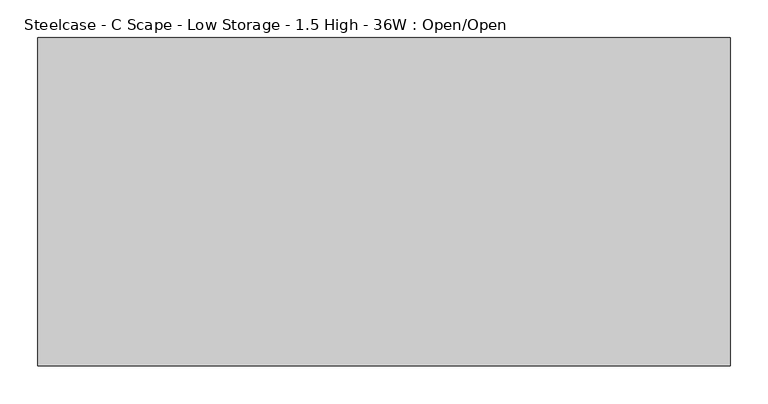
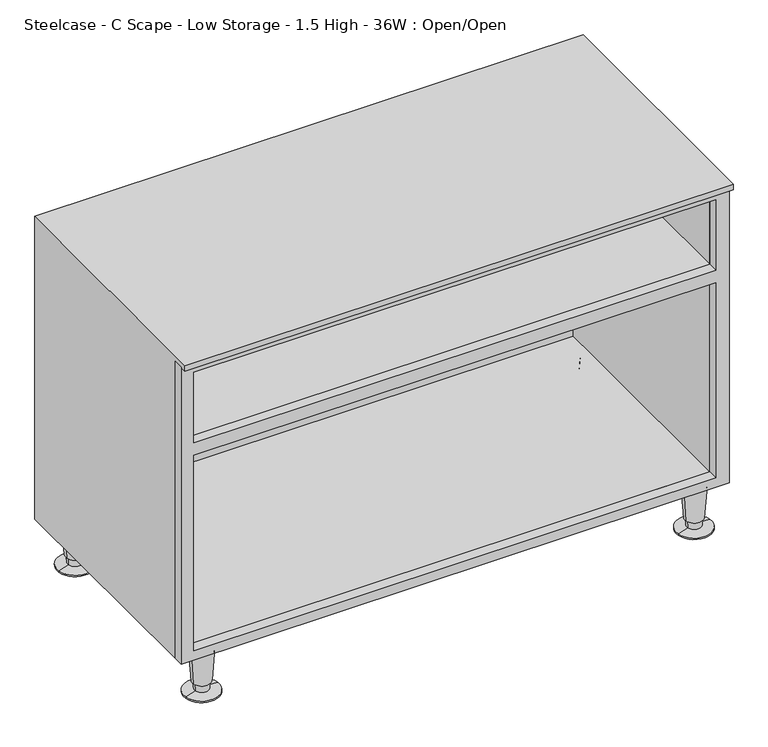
"""IFC4 building model written with IfcOpenShell, lengths in millimetres: furniture geometry, Steelcase - C Scape - Low Storage - 1.5 High - 36W : Open/Open."""

import ifcopenshell
import ifcopenshell.guid

model = None  # the IFC model being written
_history = None  # IfcOwnerHistory: only IFC2X3 demands one
_inside = {}  # id of a spatial element -> (the spatial element, [elements in it])
_under = {}  # id of a project, library or spatial element -> (it, [spatial elements below it])
_declared = {}  # id of a project -> (the project, [libraries it declares])
_typed = {}  # id of a type object -> (the type object, [elements of that type])
_made_of = {}  # id of a material, layer set ... -> (it, [elements and type objects made of it])


def new_model(schema):
    """Start an empty IFC model of exactly this schema.

    Asked for "IFC4X3", IfcOpenShell would pick the latest addendum, in which some entities
    have other attributes; the version numbers below select the first issue.
    IFC2X3 requires an IfcOwnerHistory on every rooted entity: one is made here for all.
    """
    global model, _history
    if schema == "IFC4X3":
        model = ifcopenshell.file(schema_version=(4, 3, 0, 0))
    else:
        model = ifcopenshell.file(schema=schema)
    _inside.clear()
    _under.clear()
    _declared.clear()
    _typed.clear()
    _made_of.clear()
    _history = None
    if model.schema == "IFC2X3":
        org = make("IfcOrganization", Name="unknown")
        user = make(
            "IfcPersonAndOrganization",
            ThePerson=make("IfcPerson", FamilyName="unknown"),
            TheOrganization=org,
        )
        app = make(
            "IfcApplication",
            ApplicationDeveloper=org,
            Version="unknown",
            ApplicationFullName="unknown",
            ApplicationIdentifier="unknown",
        )
        _history = make(
            "IfcOwnerHistory",
            OwningUser=user,
            OwningApplication=app,
            ChangeAction="ADDED",
            CreationDate=0,
        )
    return model


def make(cls, **values):
    """One entity of the class cls with the attributes given. An attribute that is None is left unset."""
    return model.create_entity(
        cls, **{name: value for name, value in values.items() if value is not None}
    )


def rooted(cls, **values):
    """An entity with a GlobalId (a new one), such as an element, a storey or a relation."""
    return make(cls, GlobalId=ifcopenshell.guid.new(), OwnerHistory=_history, **values)


def si_unit(unit_type, name, prefix=None):
    """IfcSIUnit, for example si_unit("LENGTHUNIT", "METRE", prefix="MILLI")."""
    return make("IfcSIUnit", UnitType=unit_type, Prefix=prefix, Name=name)


def assignment(units):
    """IfcUnitAssignment: the units of a project."""
    return None if units is None else make("IfcUnitAssignment", Units=units)


def point(xyz):
    """IfcCartesianPoint."""
    return None if xyz is None else make("IfcCartesianPoint", Coordinates=xyz)


def direction(xyz):
    """IfcDirection."""
    return None if xyz is None else make("IfcDirection", DirectionRatios=xyz)


def frame(location, z_axis=None, x_axis=None):
    """IfcAxis2Placement3D, a coordinate frame: its origin and axes. An axis left out is left unset."""
    return make(
        "IfcAxis2Placement3D",
        Location=point(location),
        Axis=direction(z_axis),
        RefDirection=direction(x_axis),
    )


def origin():
    """The frame at (0, 0, 0) with its axes left unset."""
    return frame((0.0, 0.0, 0.0))


def place(relative_to, where):
    """IfcLocalPlacement: puts the frame where relative to a parent placement (None: the world)."""
    return make(
        "IfcLocalPlacement", PlacementRelTo=relative_to, RelativePlacement=where
    )


def context(
    kind, dimensions, precision=None, world=None, true_north=None, identifier=None
):
    """IfcGeometricRepresentationContext, for example the 3D "Model" context."""
    return make(
        "IfcGeometricRepresentationContext",
        ContextIdentifier=identifier,
        ContextType=kind,
        CoordinateSpaceDimension=dimensions,
        Precision=precision,
        WorldCoordinateSystem=world,
        TrueNorth=true_north,
    )


def project(units=None, contexts=None):
    """IfcProject with its units and contexts."""
    return rooted(
        "IfcProject",
        Name="project",
        RepresentationContexts=contexts,
        UnitsInContext=assignment(units),
    )


def spatial(cls, under=None, at=None, **own):
    """A site, building, storey or space (cls), placed at a placement, below another one or the project."""
    s = rooted(cls, ObjectPlacement=at, **own)
    if under is not None:
        _under.setdefault(under.id(), (under, []))[1].append(s)
    return s


def polyline(points):
    """IfcPolyline through the points."""
    return make("IfcPolyline", Points=[point(p) for p in points])


def circle_curve(where, radius):
    """IfcCircle in the frame where."""
    return make("IfcCircle", Position=where, Radius=radius)


def outline(outer, holes=None, kind="AREA"):
    """IfcArbitraryClosedProfileDef: a profile drawn as a closed curve; with holes, ...WithVoids."""
    if holes is None:
        return make("IfcArbitraryClosedProfileDef", ProfileType=kind, OuterCurve=outer)
    return make(
        "IfcArbitraryProfileDefWithVoids",
        ProfileType=kind,
        OuterCurve=outer,
        InnerCurves=holes,
    )


def extrude(swept, where, along, depth):
    """IfcExtrudedAreaSolid: the profile swept, set in the frame where, extruded along a direction by depth."""
    return make(
        "IfcExtrudedAreaSolid",
        SweptArea=swept,
        Position=where,
        ExtrudedDirection=direction(along),
        Depth=depth,
    )


def faces_of(points, faces, orient=None, outer=None):
    """IfcFace entities. A face is a list of loops; a loop is a list of indices into points, from 0.

    orient and outer hold one flag for each loop. By default every Orientation is true, the
    first loop of a face is its IfcFaceOuterBound and the others are IfcFaceBound.
    """
    made = []
    for i, loops in enumerate(faces):
        bounds = []
        for j, loop in enumerate(loops):
            is_outer = j == 0 if outer is None else outer[i][j]
            bounds.append(
                make(
                    "IfcFaceOuterBound" if is_outer else "IfcFaceBound",
                    Bound=make("IfcPolyLoop", Polygon=[points[k] for k in loop]),
                    Orientation=True if orient is None else orient[i][j],
                )
            )
        made.append(make("IfcFace", Bounds=bounds))
    return made


def faceted_brep(points, faces, orient=None, outer=None, voids=None):
    """IfcFacetedBrep: a solid bounded by flat faces; with voids (closed shells), ...WithVoids."""
    shared = [point(p) for p in points]
    hull = make("IfcClosedShell", CfsFaces=faces_of(shared, faces, orient, outer))
    if voids is None:
        return make("IfcFacetedBrep", Outer=hull)
    return make(
        "IfcFacetedBrepWithVoids",
        Outer=hull,
        Voids=[
            make(cls, CfsFaces=faces_of(shared, fs, o, b)) for cls, fs, o, b in voids
        ],
    )


def shape(context_of_items, identifier, shape_type, items):
    """IfcShapeRepresentation: the items that make up one representation, for example the "Body"."""
    return make(
        "IfcShapeRepresentation",
        ContextOfItems=context_of_items,
        RepresentationIdentifier=identifier,
        RepresentationType=shape_type,
        Items=items,
    )


def source(mapping_origin, context_of_items, identifier, shape_type, items):
    """IfcRepresentationMap: a shape defined once, which mapped items show again and again."""
    return make(
        "IfcRepresentationMap",
        MappingOrigin=mapping_origin,
        MappedRepresentation=shape(context_of_items, identifier, shape_type, items),
    )


def transform(
    local_origin,
    x_axis=None,
    y_axis=None,
    z_axis=None,
    scale=None,
    scale2=None,
    scale3=None,
    uniform=True,
):
    """IfcCartesianTransformationOperator3D, or its non-uniform kind. x_axis, y_axis, z_axis: its Axis1, 2, 3."""
    if uniform:
        return make(
            "IfcCartesianTransformationOperator3D",
            Axis1=direction(x_axis),
            Axis2=direction(y_axis),
            LocalOrigin=point(local_origin),
            Scale=scale,
            Axis3=direction(z_axis),
        )
    return make(
        "IfcCartesianTransformationOperator3DnonUniform",
        Axis1=direction(x_axis),
        Axis2=direction(y_axis),
        LocalOrigin=point(local_origin),
        Scale=scale,
        Axis3=direction(z_axis),
        Scale2=scale2,
        Scale3=scale3,
    )


def mapped(mapping_source, mapping_target):
    """IfcMappedItem: shows the shape of a source again, moved by a transform."""
    return make(
        "IfcMappedItem", MappingSource=mapping_source, MappingTarget=mapping_target
    )


def made_of(thing, what):
    """Note that an element or type object is made of a material, layer set ...; save() writes the relation."""
    if what is not None:
        _made_of.setdefault(what.id(), (what, []))[1].append(thing)
    return thing


def element(
    cls,
    number,
    at=None,
    inside=None,
    cuts=None,
    type_object=None,
    material=None,
    context=None,
    identifier="Body",
    shape_type=None,
    held_by="IfcProductDefinitionShape",
    body=None,
    shapes=None,
    **own,
):
    """One element of the class cls, such as IfcWall. Its Tag is "e" and its number.

    at: its placement. inside: the storey or other place that contains it. cuts: it is an
    opening in that element (IfcRelVoidsElement). A single representation is given by context,
    identifier, shape_type and body (its items); several are given by shapes. held_by: the class
    of the entity that holds the representations. save() writes the other relations.
    """
    e = rooted(cls, Tag="e%d" % number, ObjectPlacement=at, **own)
    if body is not None:
        shapes = [shape(context, identifier, shape_type, body)]
    if shapes is not None:
        e.Representation = make(held_by, Representations=shapes)
    if inside is not None:
        _inside.setdefault(inside.id(), (inside, []))[1].append(e)
    if cuts is not None:
        rooted(
            "IfcRelVoidsElement", RelatingBuildingElement=cuts, RelatedOpeningElement=e
        )
    if type_object is not None:
        _typed.setdefault(type_object.id(), (type_object, []))[1].append(e)
    return made_of(e, material)


def aggregate(whole, parts):
    """IfcRelAggregates: a whole, such as a stair, and the parts it consists of."""
    return rooted("IfcRelAggregates", RelatingObject=whole, RelatedObjects=parts)


def save(model, path):
    """Write the relations noted so far, then the file.

    IfcRelAggregates (storeys below a building ...), IfcRelContainedInSpatialStructure (elements
    in a storey), IfcRelDefinesByType, IfcRelAssociatesMaterial and IfcRelDeclares: one each for
    every whole, place, type object, material and project.
    """
    for whole, parts in _under.values():
        aggregate(whole, parts)
    for where, things in _inside.values():
        rooted(
            "IfcRelContainedInSpatialStructure",
            RelatedElements=things,
            RelatingStructure=where,
        )
    for kind, things in _typed.values():
        rooted("IfcRelDefinesByType", RelatedObjects=things, RelatingType=kind)
    for what, things in _made_of.values():
        rooted("IfcRelAssociatesMaterial", RelatedObjects=things, RelatingMaterial=what)
    for by, libraries in _declared.values():
        rooted("IfcRelDeclares", RelatingContext=by, RelatedDefinitions=libraries)
    model.write(path)


def plane_surface(at):
    """IfcPlane: the flat surface through the origin of the frame at, square to its z axis."""
    return make("IfcPlane", Position=at)


def cylinder_surface(at, radius):
    """IfcCylindricalSurface: all points at the distance radius from the z axis of the frame at."""
    return make("IfcCylindricalSurface", Position=at, Radius=radius)


def revolved_surface(curve, axis_point, axis_direction):
    """IfcSurfaceOfRevolution: the curve turned about the line through axis_point along axis_direction."""
    return make(
        "IfcSurfaceOfRevolution",
        SweptCurve=make("IfcArbitraryOpenProfileDef", ProfileType="CURVE", Curve=curve),
        AxisPosition=make("IfcAxis1Placement", Location=point(axis_point), Axis=direction(axis_direction)),
    )


def advanced_brep(points, edges, surfaces, faces):
    """IfcAdvancedBrep: a solid bounded by faces that lie on surfaces and meet in shared edges.

    An edge is (start, end): straight between two places in points (the first is 0);
    or (start, end, curve); or (start, end, curve, False) where it runs against its curve.
    A face is (place in surfaces, loops), or (place, loops, False) where it looks against
    its surface's normal. A loop lists edges by number (the first is 1), with a minus sign
    where the edge is run from its end to its start. The first loop is the outer one.
    """
    corners = [point(p) for p in points]
    vertices = [make("IfcVertexPoint", VertexGeometry=c) for c in corners]
    made = []
    for start, end, *more in edges:
        made.append(
            make(
                "IfcEdgeCurve",
                EdgeStart=vertices[start],
                EdgeEnd=vertices[end],
                EdgeGeometry=more[0] if more else make("IfcPolyline", Points=[corners[start], corners[end]]),
                SameSense=more[1] if len(more) > 1 else True,
            )
        )
    hull = []
    for where, loops, *sense in faces:
        bounds = []
        for j, loop in enumerate(loops):
            ring = [make("IfcOrientedEdge", EdgeElement=made[abs(k) - 1], Orientation=k > 0) for k in loop]
            bounds.append(
                make(
                    "IfcFaceOuterBound" if j == 0 else "IfcFaceBound",
                    Bound=make("IfcEdgeLoop", EdgeList=ring),
                    Orientation=True,
                )
            )
        hull.append(make("IfcAdvancedFace", Bounds=bounds, FaceSurface=surfaces[where], SameSense=sense[0] if sense else True))
    return make("IfcAdvancedBrep", Outer=make("IfcClosedShell", CfsFaces=hull))


def steelcase_c_scape_low_storage_1_5_high_36w_open_open_6dc06b77(model_context):
    return source(origin(), model_context, "Body", "SolidModel", [
        extrude(outline(polyline([(76.2, 0.0), (76.2, 913.13), (599.44, 913.13), (599.44, 0.0), (76.2, 0.0)]), holes=[polyline([(458.7875121, 891.1617285), (458.7875121, 21.3382324), (582.93, 21.3382324), (582.93, 891.1617285), (458.7875121, 891.1617285)]), polyline([(92.7100024, 891.1617285), (92.7100024, 21.3382324), (436.8419, 21.3382324), (436.8419, 891.1617285), (92.7100024, 891.1617285)])]), frame((0.0, -421.6443408, 0.0), z_axis=(0.0, 1.0, 0.0), x_axis=(0.0, 0.0, 1.0)), (0.0, 0.0, 1.0), 17.2762904),
        advanced_brep(
        [(885.8598695, -31.5218435, 76.2), (848.1981305, -37.2840847, 76.2), (867.029, -34.4029641, 76.2), (881.9095214, -32.1262463, 19.05), (852.1484786, -36.6796819, 19.05), (879.4799345, -32.4979728, 19.05), (854.5780655, -36.3079555, 19.05), (878.791165, -32.6033544, 5.7545598), (855.266835, -36.2025738, 5.7545598), (896.1400485, -29.9489775, 2.5119506), (837.9179515, -38.8569507, 2.5119506), (896.1400485, -29.9489775, 0.0), (837.9179515, -38.8569507, 0.0), (867.029, -34.4029641, 0.0)],
        [
            (0, 1, circle_curve(frame((867.029, -34.4029641, 76.2), z_axis=(0.0, 0.0, 1.0), x_axis=(0.0, -1.0, 0.0)), 19.05)),
            (1, 2),
            (2, 0),
            (1, 0, circle_curve(frame((867.029, -34.4029641, 76.2), z_axis=(0.0, 0.0, 1.0), x_axis=(0.0, -1.0, 0.0)), 19.05)),
            (3, 4, circle_curve(frame((867.029, -34.4029641, 19.05), z_axis=(0.0, 0.0, 1.0), x_axis=(0.0, -1.0, 0.0)), 15.0536827)),
            (4, 1),
            (0, 3),
            (4, 3, circle_curve(frame((867.029, -34.4029641, 19.05), z_axis=(0.0, 0.0, 1.0), x_axis=(0.0, -1.0, 0.0)), 15.0536827)),
            (5, 6, circle_curve(frame((867.029, -34.4029641, 19.05), z_axis=(0.0, 0.0, 1.0), x_axis=(0.0, -1.0, 0.0)), 12.5958232)),
            (6, 4),
            (3, 5),
            (6, 5, circle_curve(frame((867.029, -34.4029641, 19.05), z_axis=(0.0, 0.0, 1.0), x_axis=(0.0, -1.0, 0.0)), 12.5958232)),
            (7, 8, circle_curve(frame((867.029, -34.4029641, 5.7545598), z_axis=(0.0, 0.0, 1.0), x_axis=(0.0, -1.0, 0.0)), 11.8990387)),
            (8, 6),
            (5, 7),
            (8, 7, circle_curve(frame((867.029, -34.4029641, 5.7545598), z_axis=(0.0, 0.0, 1.0), x_axis=(0.0, -1.0, 0.0)), 11.8990387)),
            (9, 10, circle_curve(frame((867.029, -34.4029641, 2.5119506), z_axis=(0.0, 0.0, 1.0), x_axis=(0.0, -1.0, 0.0)), 29.4498071)),
            (10, 8),
            (7, 9),
            (10, 9, circle_curve(frame((867.029, -34.4029641, 2.5119506), z_axis=(0.0, 0.0, 1.0), x_axis=(0.0, -1.0, 0.0)), 29.4498071)),
            (11, 12, circle_curve(frame((867.029, -34.4029641, 0.0), z_axis=(0.0, 0.0, 1.0), x_axis=(0.0, -1.0, 0.0)), 29.4498071)),
            (12, 10),
            (9, 11),
            (12, 11, circle_curve(frame((867.029, -34.4029641, 0.0), z_axis=(0.0, 0.0, 1.0), x_axis=(0.0, -1.0, 0.0)), 29.4498071)),
            (13, 12),
            (11, 13),
        ],
        [
            plane_surface(frame((867.029, -34.4029641, 76.2), z_axis=(0.0, 0.0, 1.0), x_axis=(0.0, -1.0, 0.0))),
            revolved_surface(polyline([(867.029, -53.4529641, 76.2), (867.029, -49.4566468, 19.05)]), (867.029, -34.4029641, 25.4), (0.0, 0.0, -1.0)),
            plane_surface(frame((867.029, -34.4029641, 19.05), z_axis=(0.0, 0.0, -1.0), x_axis=(0.0, -1.0, 0.0))),
            revolved_surface(polyline([(867.029, -46.9987873, 19.05), (867.029, -46.3020028, 5.7545598)]), (867.029, -34.4029641, 25.4), (0.0, 0.0, -1.0)),
            revolved_surface(polyline([(867.029, -46.3020028, 5.7545598), (867.029, -63.8527712, 2.5119506)]), (867.029, -34.4029641, 25.4), (0.0, 0.0, -1.0)),
            cylinder_surface(frame((867.029, -34.4029641, 25.4), z_axis=(0.0, 0.0, -1.0), x_axis=(0.0, -1.0, 0.0)), 29.4498071),
            plane_surface(frame((867.029, -34.4029641, 0.0), z_axis=(0.0, 0.0, -1.0), x_axis=(0.0, -1.0, 0.0))),
        ],
        [
            (0, [[1, 2, 3]]),
            (0, [[4, -3, -2]]),
            (1, [[5, 6, -1, 7]]),
            (1, [[8, -7, -4, -6]]),
            (2, [[9, 10, -5, 11]]),
            (2, [[12, -11, -8, -10]]),
            (3, [[13, 14, -9, 15]]),
            (3, [[16, -15, -12, -14]]),
            (4, [[17, 18, -13, 19]]),
            (4, [[20, -19, -16, -18]]),
            (5, [[21, 22, -17, 23]]),
            (5, [[24, -23, -20, -22]]),
            (6, [[25, -21, 26]]),
            (6, [[-26, -24, -25]]),
        ],
    ),
        advanced_brep(
        [(885.8598695, -397.1702762, 76.2), (848.1981305, -402.9325174, 76.2), (867.029, -400.0513968, 76.2), (881.9095214, -397.774679, 19.05), (852.1484786, -402.3281146, 19.05), (879.4799345, -398.1464055, 19.05), (854.5780655, -401.9563882, 19.05), (878.791165, -398.2517871, 5.7545598), (855.266835, -401.8510065, 5.7545598), (896.1400485, -395.5974102, 2.5119506), (837.9179515, -404.5053834, 2.5119506), (896.1400485, -395.5974102, 0.0), (837.9179515, -404.5053834, 0.0), (867.029, -400.0513968, 0.0)],
        [
            (0, 1, circle_curve(frame((867.029, -400.0513968, 76.2), z_axis=(0.0, 0.0, 1.0), x_axis=(0.0, -1.0, 0.0)), 19.05)),
            (1, 2),
            (2, 0),
            (1, 0, circle_curve(frame((867.029, -400.0513968, 76.2), z_axis=(0.0, 0.0, 1.0), x_axis=(0.0, -1.0, 0.0)), 19.05)),
            (3, 4, circle_curve(frame((867.029, -400.0513968, 19.05), z_axis=(0.0, 0.0, 1.0), x_axis=(0.0, -1.0, 0.0)), 15.0536827)),
            (4, 1),
            (0, 3),
            (4, 3, circle_curve(frame((867.029, -400.0513968, 19.05), z_axis=(0.0, 0.0, 1.0), x_axis=(0.0, -1.0, 0.0)), 15.0536827)),
            (5, 6, circle_curve(frame((867.029, -400.0513968, 19.05), z_axis=(0.0, 0.0, 1.0), x_axis=(0.0, -1.0, 0.0)), 12.5958232)),
            (6, 4),
            (3, 5),
            (6, 5, circle_curve(frame((867.029, -400.0513968, 19.05), z_axis=(0.0, 0.0, 1.0), x_axis=(0.0, -1.0, 0.0)), 12.5958232)),
            (7, 8, circle_curve(frame((867.029, -400.0513968, 5.7545598), z_axis=(0.0, 0.0, 1.0), x_axis=(0.0, -1.0, 0.0)), 11.8990387)),
            (8, 6),
            (5, 7),
            (8, 7, circle_curve(frame((867.029, -400.0513968, 5.7545598), z_axis=(0.0, 0.0, 1.0), x_axis=(0.0, -1.0, 0.0)), 11.8990387)),
            (9, 10, circle_curve(frame((867.029, -400.0513968, 2.5119506), z_axis=(0.0, 0.0, 1.0), x_axis=(0.0, -1.0, 0.0)), 29.4498071)),
            (10, 8),
            (7, 9),
            (10, 9, circle_curve(frame((867.029, -400.0513968, 2.5119506), z_axis=(0.0, 0.0, 1.0), x_axis=(0.0, -1.0, 0.0)), 29.4498071)),
            (11, 12, circle_curve(frame((867.029, -400.0513968, 0.0), z_axis=(0.0, 0.0, 1.0), x_axis=(0.0, -1.0, 0.0)), 29.4498071)),
            (12, 10),
            (9, 11),
            (12, 11, circle_curve(frame((867.029, -400.0513968, 0.0), z_axis=(0.0, 0.0, 1.0), x_axis=(0.0, -1.0, 0.0)), 29.4498071)),
            (13, 12),
            (11, 13),
        ],
        [
            plane_surface(frame((867.029, -400.0513968, 76.2), z_axis=(0.0, 0.0, 1.0), x_axis=(0.0, -1.0, 0.0))),
            revolved_surface(polyline([(867.029, -419.1013968, 76.2), (867.029, -415.1050795, 19.05)]), (867.029, -400.0513968, 25.4), (0.0, 0.0, -1.0)),
            plane_surface(frame((867.029, -400.0513968, 19.05), z_axis=(0.0, 0.0, -1.0), x_axis=(0.0, -1.0, 0.0))),
            revolved_surface(polyline([(867.029, -412.64722, 19.05), (867.029, -411.9504355, 5.7545598)]), (867.029, -400.0513968, 25.4), (0.0, 0.0, -1.0)),
            revolved_surface(polyline([(867.029, -411.9504355, 5.7545598), (867.029, -429.5012039, 2.5119506)]), (867.029, -400.0513968, 25.4), (0.0, 0.0, -1.0)),
            cylinder_surface(frame((867.029, -400.0513968, 25.4), z_axis=(0.0, 0.0, -1.0), x_axis=(0.0, -1.0, 0.0)), 29.4498071),
            plane_surface(frame((867.029, -400.0513968, 0.0), z_axis=(0.0, 0.0, -1.0), x_axis=(0.0, -1.0, 0.0))),
        ],
        [
            (0, [[1, 2, 3]]),
            (0, [[4, -3, -2]]),
            (1, [[5, 6, -1, 7]]),
            (1, [[8, -7, -4, -6]]),
            (2, [[9, 10, -5, 11]]),
            (2, [[12, -11, -8, -10]]),
            (3, [[13, 14, -9, 15]]),
            (3, [[16, -15, -12, -14]]),
            (4, [[17, 18, -13, 19]]),
            (4, [[20, -19, -16, -18]]),
            (5, [[21, 22, -17, 23]]),
            (5, [[24, -23, -20, -22]]),
            (6, [[25, -21, 26]]),
            (6, [[-26, -24, -25]]),
        ],
    ),
        advanced_brep(
        [(65.5422821, -397.1702762, 76.2), (27.8805432, -402.9325174, 76.2), (46.7114126, -400.0513968, 76.2), (61.5919341, -397.774679, 19.05), (31.8308912, -402.3281146, 19.05), (59.1623471, -398.1464055, 19.05), (34.2604781, -401.9563882, 19.05), (58.4735776, -398.2517871, 5.7545598), (34.9492476, -401.8510065, 5.7545598), (75.8224611, -395.5974102, 2.5119506), (17.6003641, -404.5053834, 2.5119506), (75.8224611, -395.5974102, 0.0), (17.6003641, -404.5053834, 0.0), (46.7114126, -400.0513968, 0.0)],
        [
            (0, 1, circle_curve(frame((46.7114126, -400.0513968, 76.2), z_axis=(0.0, 0.0, 1.0), x_axis=(0.0, -1.0, 0.0)), 19.05)),
            (1, 2),
            (2, 0),
            (1, 0, circle_curve(frame((46.7114126, -400.0513968, 76.2), z_axis=(0.0, 0.0, 1.0), x_axis=(0.0, -1.0, 0.0)), 19.05)),
            (3, 4, circle_curve(frame((46.7114126, -400.0513968, 19.05), z_axis=(0.0, 0.0, 1.0), x_axis=(0.0, -1.0, 0.0)), 15.0536827)),
            (4, 1),
            (0, 3),
            (4, 3, circle_curve(frame((46.7114126, -400.0513968, 19.05), z_axis=(0.0, 0.0, 1.0), x_axis=(0.0, -1.0, 0.0)), 15.0536827)),
            (5, 6, circle_curve(frame((46.7114126, -400.0513968, 19.05), z_axis=(0.0, 0.0, 1.0), x_axis=(0.0, -1.0, 0.0)), 12.5958232)),
            (6, 4),
            (3, 5),
            (6, 5, circle_curve(frame((46.7114126, -400.0513968, 19.05), z_axis=(0.0, 0.0, 1.0), x_axis=(0.0, -1.0, 0.0)), 12.5958232)),
            (7, 8, circle_curve(frame((46.7114126, -400.0513968, 5.7545598), z_axis=(0.0, 0.0, 1.0), x_axis=(0.0, -1.0, 0.0)), 11.8990387)),
            (8, 6),
            (5, 7),
            (8, 7, circle_curve(frame((46.7114126, -400.0513968, 5.7545598), z_axis=(0.0, 0.0, 1.0), x_axis=(0.0, -1.0, 0.0)), 11.8990387)),
            (9, 10, circle_curve(frame((46.7114126, -400.0513968, 2.5119506), z_axis=(0.0, 0.0, 1.0), x_axis=(0.0, -1.0, 0.0)), 29.4498071)),
            (10, 8),
            (7, 9),
            (10, 9, circle_curve(frame((46.7114126, -400.0513968, 2.5119506), z_axis=(0.0, 0.0, 1.0), x_axis=(0.0, -1.0, 0.0)), 29.4498071)),
            (11, 12, circle_curve(frame((46.7114126, -400.0513968, 0.0), z_axis=(0.0, 0.0, 1.0), x_axis=(0.0, -1.0, 0.0)), 29.4498071)),
            (12, 10),
            (9, 11),
            (12, 11, circle_curve(frame((46.7114126, -400.0513968, 0.0), z_axis=(0.0, 0.0, 1.0), x_axis=(0.0, -1.0, 0.0)), 29.4498071)),
            (13, 12),
            (11, 13),
        ],
        [
            plane_surface(frame((46.7114126, -400.0513968, 76.2), z_axis=(0.0, 0.0, 1.0), x_axis=(0.0, -1.0, 0.0))),
            revolved_surface(polyline([(46.7114126, -419.1013968, 76.2), (46.7114126, -415.1050795, 19.05)]), (46.7114126, -400.0513968, 25.4), (0.0, 0.0, -1.0)),
            plane_surface(frame((46.7114126, -400.0513968, 19.05), z_axis=(0.0, 0.0, -1.0), x_axis=(0.0, -1.0, 0.0))),
            revolved_surface(polyline([(46.7114126, -412.64722, 19.05), (46.7114126, -411.9504355, 5.7545598)]), (46.7114126, -400.0513968, 25.4), (0.0, 0.0, -1.0)),
            revolved_surface(polyline([(46.7114126, -411.9504355, 5.7545598), (46.7114126, -429.5012039, 2.5119506)]), (46.7114126, -400.0513968, 25.4), (0.0, 0.0, -1.0)),
            cylinder_surface(frame((46.7114126, -400.0513968, 25.4), z_axis=(0.0, 0.0, -1.0), x_axis=(0.0, -1.0, 0.0)), 29.4498071),
            plane_surface(frame((46.7114126, -400.0513968, 0.0), z_axis=(0.0, 0.0, -1.0), x_axis=(0.0, -1.0, 0.0))),
        ],
        [
            (0, [[1, 2, 3]]),
            (0, [[4, -3, -2]]),
            (1, [[5, 6, -1, 7]]),
            (1, [[8, -7, -4, -6]]),
            (2, [[9, 10, -5, 11]]),
            (2, [[12, -11, -8, -10]]),
            (3, [[13, 14, -9, 15]]),
            (3, [[16, -15, -12, -14]]),
            (4, [[17, 18, -13, 19]]),
            (4, [[20, -19, -16, -18]]),
            (5, [[21, 22, -17, 23]]),
            (5, [[24, -23, -20, -22]]),
            (6, [[25, -21, 26]]),
            (6, [[-26, -24, -25]]),
        ],
    ),
        advanced_brep(
        [(65.5422821, -31.5218435, 76.2), (27.8805432, -37.2840847, 76.2), (46.7114126, -34.4029641, 76.2), (61.5919341, -32.1262463, 19.05), (31.8308912, -36.6796819, 19.05), (59.1623471, -32.4979728, 19.05), (34.2604781, -36.3079555, 19.05), (58.4735776, -32.6033544, 5.7545598), (34.9492476, -36.2025738, 5.7545598), (75.8224611, -29.9489775, 2.5119506), (17.6003641, -38.8569507, 2.5119506), (75.8224611, -29.9489775, 0.0), (17.6003641, -38.8569507, 0.0), (46.7114126, -34.4029641, 0.0)],
        [
            (0, 1, circle_curve(frame((46.7114126, -34.4029641, 76.2), z_axis=(0.0, 0.0, 1.0), x_axis=(0.0, -1.0, 0.0)), 19.05)),
            (1, 2),
            (2, 0),
            (1, 0, circle_curve(frame((46.7114126, -34.4029641, 76.2), z_axis=(0.0, 0.0, 1.0), x_axis=(0.0, -1.0, 0.0)), 19.05)),
            (3, 4, circle_curve(frame((46.7114126, -34.4029641, 19.05), z_axis=(0.0, 0.0, 1.0), x_axis=(0.0, -1.0, 0.0)), 15.0536827)),
            (4, 1),
            (0, 3),
            (4, 3, circle_curve(frame((46.7114126, -34.4029641, 19.05), z_axis=(0.0, 0.0, 1.0), x_axis=(0.0, -1.0, 0.0)), 15.0536827)),
            (5, 6, circle_curve(frame((46.7114126, -34.4029641, 19.05), z_axis=(0.0, 0.0, 1.0), x_axis=(0.0, -1.0, 0.0)), 12.5958232)),
            (6, 4),
            (3, 5),
            (6, 5, circle_curve(frame((46.7114126, -34.4029641, 19.05), z_axis=(0.0, 0.0, 1.0), x_axis=(0.0, -1.0, 0.0)), 12.5958232)),
            (7, 8, circle_curve(frame((46.7114126, -34.4029641, 5.7545598), z_axis=(0.0, 0.0, 1.0), x_axis=(0.0, -1.0, 0.0)), 11.8990387)),
            (8, 6),
            (5, 7),
            (8, 7, circle_curve(frame((46.7114126, -34.4029641, 5.7545598), z_axis=(0.0, 0.0, 1.0), x_axis=(0.0, -1.0, 0.0)), 11.8990387)),
            (9, 10, circle_curve(frame((46.7114126, -34.4029641, 2.5119506), z_axis=(0.0, 0.0, 1.0), x_axis=(0.0, -1.0, 0.0)), 29.4498071)),
            (10, 8),
            (7, 9),
            (10, 9, circle_curve(frame((46.7114126, -34.4029641, 2.5119506), z_axis=(0.0, 0.0, 1.0), x_axis=(0.0, -1.0, 0.0)), 29.4498071)),
            (11, 12, circle_curve(frame((46.7114126, -34.4029641, 0.0), z_axis=(0.0, 0.0, 1.0), x_axis=(0.0, -1.0, 0.0)), 29.4498071)),
            (12, 10),
            (9, 11),
            (12, 11, circle_curve(frame((46.7114126, -34.4029641, 0.0), z_axis=(0.0, 0.0, 1.0), x_axis=(0.0, -1.0, 0.0)), 29.4498071)),
            (13, 12),
            (11, 13),
        ],
        [
            plane_surface(frame((46.7114126, -34.4029641, 76.2), z_axis=(0.0, 0.0, 1.0), x_axis=(0.0, -1.0, 0.0))),
            revolved_surface(polyline([(46.7114126, -53.4529641, 76.2), (46.7114126, -49.4566468, 19.05)]), (46.7114126, -34.4029641, 25.4), (0.0, 0.0, -1.0)),
            plane_surface(frame((46.7114126, -34.4029641, 19.05), z_axis=(0.0, 0.0, -1.0), x_axis=(0.0, -1.0, 0.0))),
            revolved_surface(polyline([(46.7114126, -46.9987873, 19.05), (46.7114126, -46.3020028, 5.7545598)]), (46.7114126, -34.4029641, 25.4), (0.0, 0.0, -1.0)),
            revolved_surface(polyline([(46.7114126, -46.3020028, 5.7545598), (46.7114126, -63.8527712, 2.5119506)]), (46.7114126, -34.4029641, 25.4), (0.0, 0.0, -1.0)),
            cylinder_surface(frame((46.7114126, -34.4029641, 25.4), z_axis=(0.0, 0.0, -1.0), x_axis=(0.0, -1.0, 0.0)), 29.4498071),
            plane_surface(frame((46.7114126, -34.4029641, 0.0), z_axis=(0.0, 0.0, -1.0), x_axis=(0.0, -1.0, 0.0))),
        ],
        [
            (0, [[1, 2, 3]]),
            (0, [[4, -3, -2]]),
            (1, [[5, 6, -1, 7]]),
            (1, [[8, -7, -4, -6]]),
            (2, [[9, 10, -5, 11]]),
            (2, [[12, -11, -8, -10]]),
            (3, [[13, 14, -9, 15]]),
            (3, [[16, -15, -12, -14]]),
            (4, [[17, 18, -13, 19]]),
            (4, [[20, -19, -16, -18]]),
            (5, [[21, 22, -17, 23]]),
            (5, [[24, -23, -20, -22]]),
            (6, [[25, -21, 26]]),
            (6, [[-26, -24, -25]]),
        ],
    ),
        faceted_brep([(0.0, 0.0, 609.6), (913.13, 0.0, 609.6), (913.13, 0.0, 76.2), (0.0, 0.0, 76.2), (0.0, -433.07, 609.6), (0.0, -404.3680504, 76.2), (0.0, -404.3680504, 599.44), (0.0, -433.07, 599.44), (21.3382324, -404.3680504, 599.44), (913.13, -404.3680504, 76.2), (913.13, -404.3680504, 599.44), (891.1617285, -404.3680504, 599.44), (891.1617285, -404.3680504, 458.7875121), (21.3382324, -404.3680504, 458.7875121), (891.1617285, -404.3680504, 450.8499879), (891.1617285, -404.3680504, 92.7100024), (21.3382324, -404.3680504, 92.7100024), (21.3382324, -404.3680504, 450.8499879), (21.3382324, -9.525, 599.44), (21.3382324, -9.525, 458.7875121), (21.3382324, -9.525, 92.7100024), (21.3382324, -9.525, 450.8499879), (891.1617285, -9.525, 599.44), (891.1617285, -9.525, 458.7875121), (891.1617285, -9.525, 92.7100024), (891.1617285, -9.525, 450.8499879), (913.13, -433.07, 609.6), (913.13, -433.07, 599.44)], [[[0, 1, 2, 3]], [[4, 0, 3, 5, 6, 7]], [[8, 6, 5, 9, 10, 11, 12, 13], [14, 15, 16, 17]], [[18, 8, 13, 19]], [[17, 16, 20, 21]], [[22, 18, 19, 23]], [[21, 20, 24, 25]], [[11, 22, 23, 12]], [[25, 24, 15, 14]], [[2, 1, 26, 27, 10, 9]], [[1, 0, 4, 26]], [[27, 7, 6, 8, 18, 22, 11, 10]], [[26, 4, 7, 27]], [[13, 12, 23, 19]], [[14, 17, 21, 25]], [[16, 15, 24, 20]], [[2, 9, 5, 3]]]),
    ])


if __name__ == "__main__":
    model = new_model("IFC4")
    model_context = context("Model", 3, world=origin())
    ifc_project = project(units=[si_unit("LENGTHUNIT", "METRE", prefix="MILLI")], contexts=[model_context])
    site = spatial("IfcSite", under=ifc_project)
    building = spatial("IfcBuilding", under=site)
    placement = place(None, origin())
    steelcase_c_scape_low_storage_1_5_high_36w_open_open_shape = steelcase_c_scape_low_storage_1_5_high_36w_open_open_6dc06b77(model_context)
    element("IfcFurniture", 1, ObjectType="Steelcase - C Scape - Low Storage - 1.5 High - 36W : Open/Open", at=placement, inside=building, context=model_context, shape_type="MappedRepresentation", body=[
        mapped(steelcase_c_scape_low_storage_1_5_high_36w_open_open_shape, transform((0.0, 0.0, 0.0), x_axis=(1.0, 0.0, 0.0), y_axis=(0.0, 1.0, 0.0), z_axis=(0.0, 0.0, 1.0))),
    ])
    save(model, "model.ifc")
